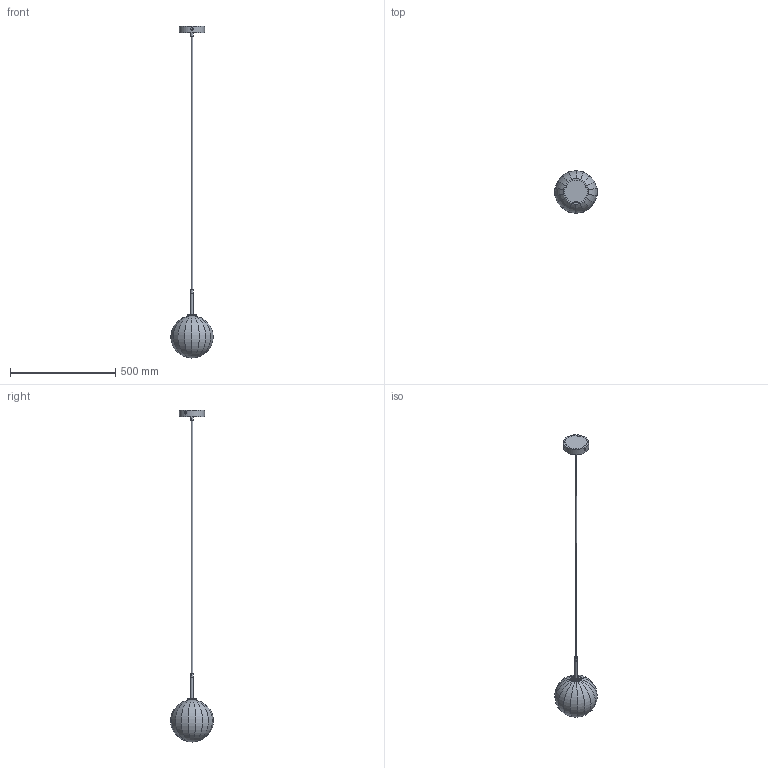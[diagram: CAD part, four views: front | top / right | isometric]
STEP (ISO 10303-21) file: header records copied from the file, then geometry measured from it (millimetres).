
FILE_DESCRIPTION(/* description */ (''),/* implementation_level */ '2;1');
FILE_NAME(/* name */ 'T:\B088 Dries Pendant 200\Pliki bryłowe handlowe\B088 Dries 200 3D files_na stronę\B088 Dries 200.stp',/* time_stamp */ '2022-02-02T13:04:12+01:00',/* author */ ('Mariusz Awariusz'),/* organization */ (''),/* preprocessor_version */ 'ST-DEVELOPER v18.1',/* originating_system */ 'Autodesk Inventor 2022',/* authorisation */ '');
FILE_SCHEMA (('AUTOMOTIVE_DESIGN { 1 0 10303 214 3 1 1 }'));
Length unit declared in the file: millimetre
Products named in the file (1): B088 Dries Pendant 200 CE_na potrzeby plików 3D_2_jako część_
korpusy bryłowe
Bounding box: 199.71 x 202.58 x 1574.2 mm (x, y, z)
Volume: 4691771.4 mm3; surface area: 226536.7 mm2
Topology: 18 solids, 18 shells, 207 faces, 456 edges, 285 vertices
Faces by surface type: plane 91, cylinder 87, cone 27, torus 1, sphere 1
Full cylindrical faces by diameter (mm): 2.693 x3, 3 x3, 3.4 x3, 5.5 x3, 6 x5, 7 x1, 11.6 x1, 13 x4, 20 x1, 22 x2, 25 x1, 43 x1, 45 x1, 120 x1
Entity records: 5845 total; most frequent: CARTESIAN_POINT 1217, DIRECTION 1001, ORIENTED_EDGE 912, EDGE_CURVE 456, AXIS2_PLACEMENT_3D 403, VERTEX_POINT 285, EDGE_LOOP 215, FACE_OUTER_BOUND 207
